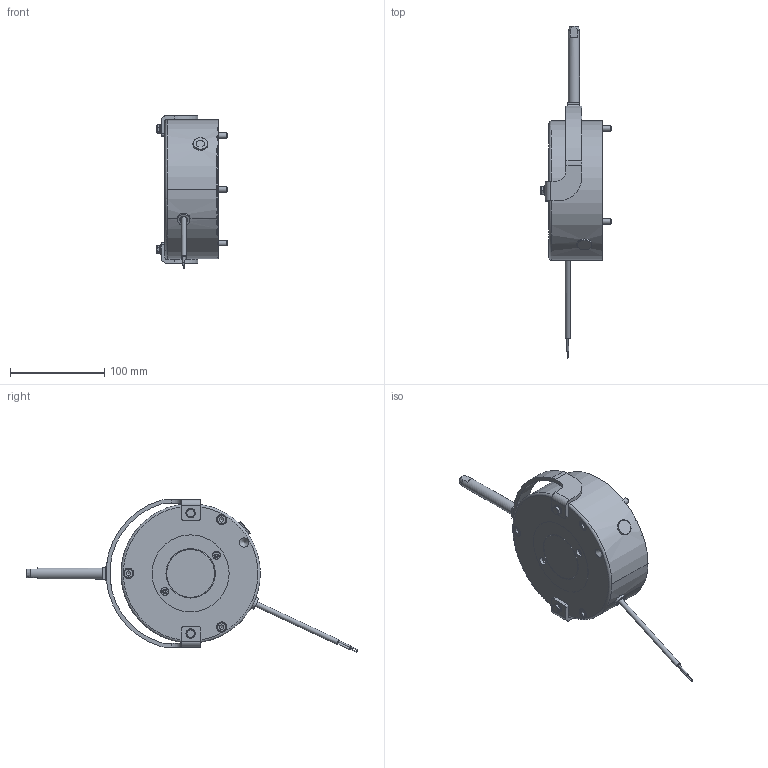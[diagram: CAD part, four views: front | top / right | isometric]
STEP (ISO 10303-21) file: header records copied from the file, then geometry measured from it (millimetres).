
FILE_DESCRIPTION(/* description */ (''),/* implementation_level */ '2;1');
FILE_NAME(/* name */ 'C:\SapWorkDir\Inventor\IP1\ConvertTempPath\5028780_IPT_000.ipt.stp',/* time_stamp */ '2020-09-17T15:02:55+02:00',/* author */ ('STRATE'),/* organization */ (''),/* preprocessor_version */ 'ST-DEVELOPER v17',/* originating_system */ 'Autodesk Inventor 2018',/* authorisation */ '');
FILE_SCHEMA (('AUTOMOTIVE_DESIGN { 1 0 10303 214 3 1 1 }'));
Length unit declared in the file: millimetre
Products named in the file (1): 5028780
Bounding box: 74.5 x 352.95 x 162.61 mm (x, y, z)
Volume: 879907.4 mm3; surface area: 168082 mm2
Topology: 3 solids, 3 shells, 625 faces, 1675 edges, 1126 vertices
Faces by surface type: cylinder 352, plane 195, cone 58, torus 20
Full cylindrical faces by diameter (mm): 0.01 x1, 1 x2, 1.85 x2, 5 x4, 5.3 x5, 5.5 x2, 6 x7, 6.2 x3, 6.28 x2, 6.5 x5, 6.6 x1, 6.88 x2, 7 x2, 7.2 x1, 8 x1, 8.376 x2, 8.5 x2, 8.8 x2, 9.2 x2, 9.9 x3, 10 x8, 11 x3, 12 x1, 13.2 x1, 16 x1, 44 x1, 51.9 x1, 52 x3, 69.5 x2, 70.1 x2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
Entity records: 21503 total; most frequent: CARTESIAN_POINT 5063, ORIENTED_EDGE 3350, DIRECTION 3257, EDGE_CURVE 1675, AXIS2_PLACEMENT_3D 1313, VERTEX_POINT 1126, EDGE_LOOP 723, CIRCLE 687
